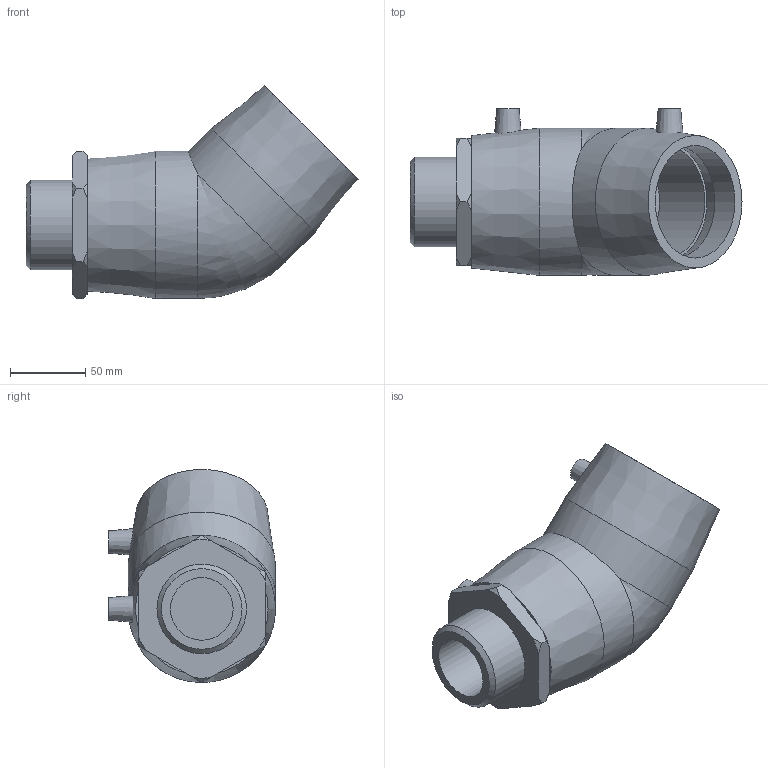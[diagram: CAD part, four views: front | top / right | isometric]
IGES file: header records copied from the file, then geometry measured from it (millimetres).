
Global section: file name: 492604075020.ipt; native system: Autodesk Inventor 2015; preprocessor: unknown; author: KIM; date: 20200202.122432; units: millimetre
Bounding box: 221 x 111 x 141.83 mm (x, y, z)
Volume: 811439 mm3; surface area: 123301.4 mm2
Topology: 1 solids, 2 shells, 59 faces, 142 edges, 97 vertices
Faces by surface type: plane 24, cone 17, revolution 10, cylinder 7, bspline 1
Full cylindrical faces by diameter (mm): 4 x2, 59.614 x1, 75 x2, 98 x2
